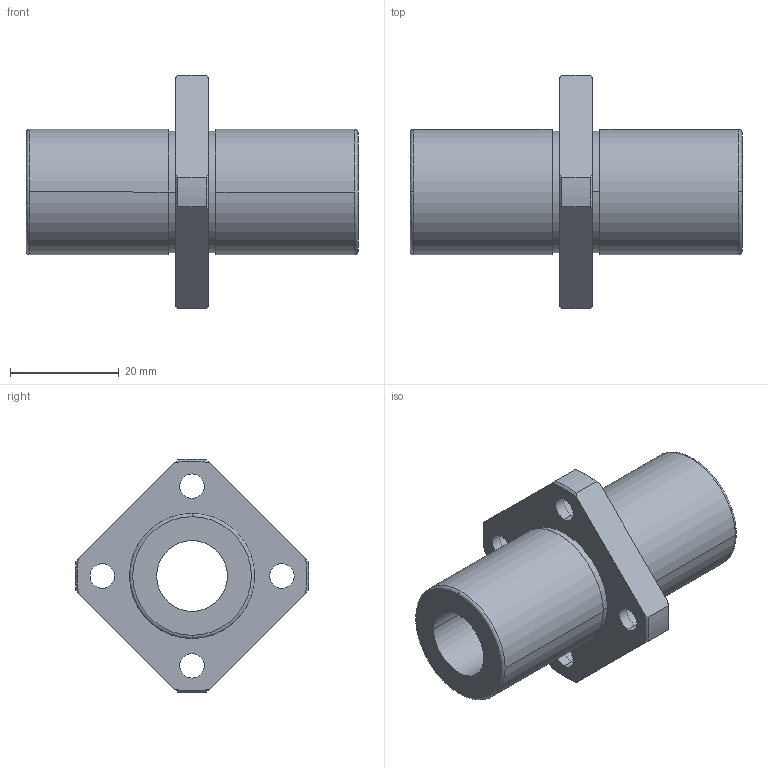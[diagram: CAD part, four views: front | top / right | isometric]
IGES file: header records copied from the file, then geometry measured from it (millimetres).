
Start section: 3D InterOp IGES (Version 21 0 1), Spatial Corp. Copyright (c) 1999-2007.
Global section: file name: NFCS-13VLUU.igs; native system: Spatial Corp.; preprocessor: 3D InterOp GENERIC/IGES 3.0; author: Noname; organization: Noname; date: 20220308.133619; units: millimetre
Bounding box: 61 x 42.98 x 42.96 mm (x, y, z)
Surface area: 9631.3 mm2 (no closed solid volume)
Topology: 0 solids, 0 shells, 59 faces, 292 edges, 292 vertices
Faces by surface type: revolution 45, extrusion 14
